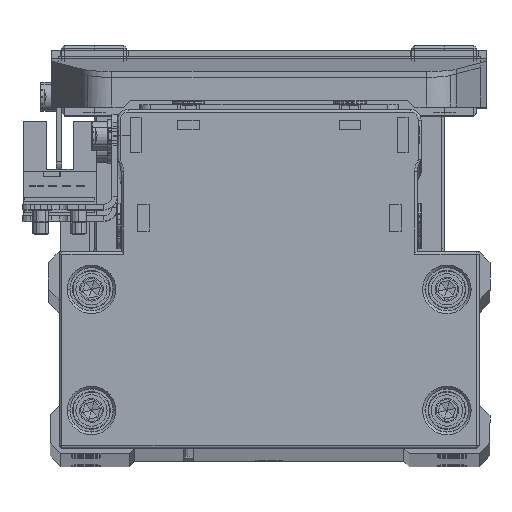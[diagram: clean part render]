
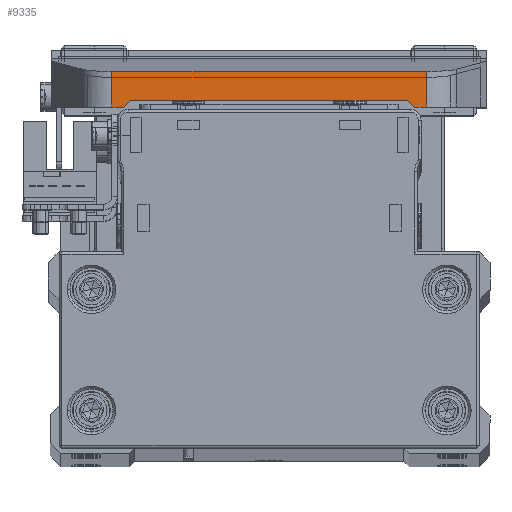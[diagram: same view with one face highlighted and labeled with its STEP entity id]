
A CAD part, top view. The second image highlights one B-rep face of the part: STEP entity #9335.
In plain terms, the highlighted planar face has unit normal (0, 0, 1) as drawn and (-1, 0, 0) by its records, which use the part's own axes.
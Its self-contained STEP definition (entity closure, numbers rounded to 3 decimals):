
#312 = PLANE ( 'NONE',  #19166 ) ;
#2229 = ORIENTED_EDGE ( 'NONE', *, *, #12861, .F. ) ;
#2854 = DIRECTION ( 'NONE',  ( 0., 0., -1. ) ) ;
#3206 = ORIENTED_EDGE ( 'NONE', *, *, #8323, .T. ) ;
#3286 = DIRECTION ( 'NONE',  ( 0., 1., 0. ) ) ;
#3575 = VERTEX_POINT ( 'NONE', #33360 ) ;
#4147 = EDGE_LOOP ( 'NONE', ( #16238, #22324, #26911, #29888, #2229, #31449, #3206, #31431 ) ) ;
#5285 = LINE ( 'NONE', #17725, #34722 ) ;
#5314 = LINE ( 'NONE', #17754, #39556 ) ;
#5868 = CARTESIAN_POINT ( 'NONE',  ( -67.5, 10.6, -29.225 ) ) ;
#7531 = VERTEX_POINT ( 'NONE', #18715 ) ;
#7731 = LINE ( 'NONE', #20161, #32999 ) ;
#8018 = DIRECTION ( 'NONE',  ( 0., 0.655, -0.756 ) ) ;
#8323 = EDGE_CURVE ( 'NONE', #33398, #7531, #15084, .T. ) ;
#9335 = ADVANCED_FACE ( 'NONE', ( #28243 ), #312, .F. ) ;
#9607 = VECTOR ( 'NONE', #39979, 1000. ) ;
#10285 = LINE ( 'NONE', #22719, #18841 ) ;
#11421 = CARTESIAN_POINT ( 'NONE',  ( -67.5, 9.3, 25.5 ) ) ;
#11976 = EDGE_CURVE ( 'NONE', #22035, #15179, #23512, .T. ) ;
#12750 = CARTESIAN_POINT ( 'NONE',  ( -67.5, 10.6, 40.4 ) ) ;
#12861 = EDGE_CURVE ( 'NONE', #3575, #33985, #7731, .T. ) ;
#14579 = CARTESIAN_POINT ( 'NONE',  ( -67.5, 10.6, 29.225 ) ) ;
#15084 = LINE ( 'NONE', #27513, #9607 ) ;
#15179 = VERTEX_POINT ( 'NONE', #37820 ) ;
#16238 = ORIENTED_EDGE ( 'NONE', *, *, #40150, .T. ) ;
#17227 = VERTEX_POINT ( 'NONE', #11421 ) ;
#17725 = CARTESIAN_POINT ( 'NONE',  ( -67.5, 9.3, 25.5 ) ) ;
#17754 = CARTESIAN_POINT ( 'NONE',  ( -67.5, 10.6, 27. ) ) ;
#18715 = CARTESIAN_POINT ( 'NONE',  ( -67.5, 10.6, 27. ) ) ;
#18791 = LINE ( 'NONE', #31227, #23750 ) ;
#18841 = VECTOR ( 'NONE', #35167, 1000. ) ;
#19166 = AXIS2_PLACEMENT_3D ( 'NONE', #12750, #25182, #37646 ) ;
#20161 = CARTESIAN_POINT ( 'NONE',  ( -67.5, 4., 40.4 ) ) ;
#21426 = LINE ( 'NONE', #30788, #22976 ) ;
#22023 = EDGE_CURVE ( 'NONE', #15179, #33035, #21426, .T. ) ;
#22035 = VERTEX_POINT ( 'NONE', #37139 ) ;
#22324 = ORIENTED_EDGE ( 'NONE', *, *, #11976, .T. ) ;
#22719 = CARTESIAN_POINT ( 'NONE',  ( -67.5, 4., -29.225 ) ) ;
#22976 = VECTOR ( 'NONE', #2854, 1000. ) ;
#23512 = LINE ( 'NONE', #35962, #36968 ) ;
#23750 = VECTOR ( 'NONE', #3286, 1000. ) ;
#25182 = DIRECTION ( 'NONE',  ( 1., 0., 0. ) ) ;
#25787 = EDGE_CURVE ( 'NONE', #7531, #17227, #5314, .T. ) ;
#26591 = CARTESIAN_POINT ( 'NONE',  ( -67.5, 4., -29.225 ) ) ;
#26911 = ORIENTED_EDGE ( 'NONE', *, *, #22023, .T. ) ;
#27513 = CARTESIAN_POINT ( 'NONE',  ( -67.5, 10.6, 40.4 ) ) ;
#28243 = FACE_OUTER_BOUND ( 'NONE', #4147, .T. ) ;
#29888 = ORIENTED_EDGE ( 'NONE', *, *, #36851, .T. ) ;
#30161 = DIRECTION ( 'NONE',  ( 0., 0., -1. ) ) ;
#30188 = DIRECTION ( 'NONE',  ( 0., -0.655, -0.756 ) ) ;
#30788 = CARTESIAN_POINT ( 'NONE',  ( -67.5, 10.6, 40.4 ) ) ;
#31227 = CARTESIAN_POINT ( 'NONE',  ( -67.5, 10.6, 29.225 ) ) ;
#31431 = ORIENTED_EDGE ( 'NONE', *, *, #25787, .T. ) ;
#31449 = ORIENTED_EDGE ( 'NONE', *, *, #34085, .T. ) ;
#32596 = DIRECTION ( 'NONE',  ( 0., 0., -1. ) ) ;
#32999 = VECTOR ( 'NONE', #32596, 1000. ) ;
#33035 = VERTEX_POINT ( 'NONE', #5868 ) ;
#33360 = CARTESIAN_POINT ( 'NONE',  ( -67.5, 4., 29.225 ) ) ;
#33398 = VERTEX_POINT ( 'NONE', #14579 ) ;
#33985 = VERTEX_POINT ( 'NONE', #26591 ) ;
#34085 = EDGE_CURVE ( 'NONE', #3575, #33398, #18791, .T. ) ;
#34722 = VECTOR ( 'NONE', #30161, 1000. ) ;
#35167 = DIRECTION ( 'NONE',  ( 0., -1., 0. ) ) ;
#35962 = CARTESIAN_POINT ( 'NONE',  ( -67.5, 10.6, -27. ) ) ;
#36851 = EDGE_CURVE ( 'NONE', #33035, #33985, #10285, .T. ) ;
#36968 = VECTOR ( 'NONE', #8018, 1000. ) ;
#37139 = CARTESIAN_POINT ( 'NONE',  ( -67.5, 9.3, -25.5 ) ) ;
#37646 = DIRECTION ( 'NONE',  ( 0., 0., -1. ) ) ;
#37820 = CARTESIAN_POINT ( 'NONE',  ( -67.5, 10.6, -27. ) ) ;
#39556 = VECTOR ( 'NONE', #30188, 1000. ) ;
#39979 = DIRECTION ( 'NONE',  ( 0., 0., -1. ) ) ;
#40150 = EDGE_CURVE ( 'NONE', #17227, #22035, #5285, .T. ) ;
